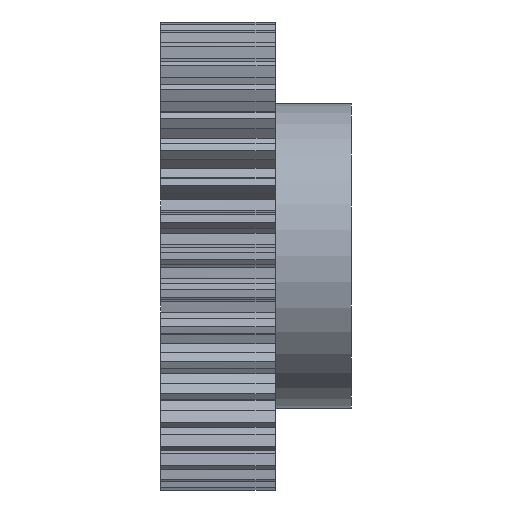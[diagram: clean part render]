
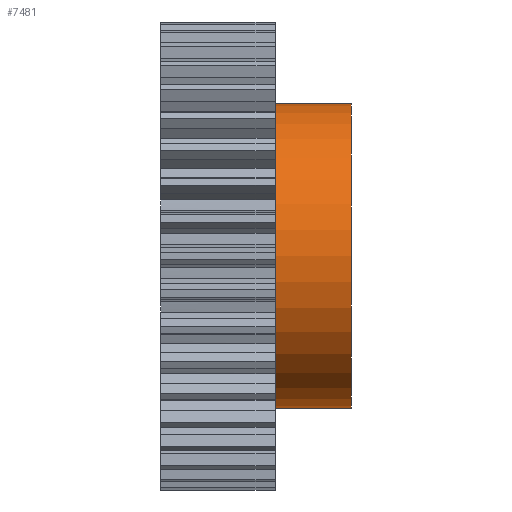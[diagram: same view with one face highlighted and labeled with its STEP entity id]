
A CAD part, front view. The second image highlights one B-rep face of the part: STEP entity #7481.
In plain terms, the highlighted cylindrical face has radius 40 mm (diameter 80 mm), a partial arc.
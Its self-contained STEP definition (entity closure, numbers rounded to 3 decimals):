
#187 = VERTEX_POINT ( 'NONE', #6076 ) ;
#190 = VERTEX_POINT ( 'NONE', #6078 ) ;
#266 = EDGE_CURVE ( 'NONE', #187, #279, #6208, .T. ) ;
#272 = VERTEX_POINT ( 'NONE', #6201 ) ;
#279 = VERTEX_POINT ( 'NONE', #6245 ) ;
#318 = EDGE_CURVE ( 'NONE', #190, #272, #6286, .T. ) ;
#2227 = DIRECTION ( 'NONE',  ( 1., 0., 0. ) ) ;
#2642 = CARTESIAN_POINT ( 'NONE',  ( 15., 0., 0. ) ) ;
#2665 = AXIS2_PLACEMENT_3D ( 'NONE', #2642, #2227, #3147 ) ;
#2918 = CIRCLE ( 'NONE', #2665, 40. ) ;
#3129 = DIRECTION ( 'NONE',  ( 0., 0., 1. ) ) ;
#3130 = DIRECTION ( 'NONE',  ( -1., 0., 0. ) ) ;
#3131 = AXIS2_PLACEMENT_3D ( 'NONE', #3146, #3130, #3129 ) ;
#3139 = CIRCLE ( 'NONE', #3131, 40. ) ;
#3146 = CARTESIAN_POINT ( 'NONE',  ( 35., 0., 0. ) ) ;
#3147 = DIRECTION ( 'NONE',  ( 0., 0., 1. ) ) ;
#3485 = FACE_OUTER_BOUND ( 'NONE', #7368, .T. ) ;
#3521 = DIRECTION ( 'NONE',  ( -1., 0., 0. ) ) ;
#3522 = CARTESIAN_POINT ( 'NONE',  ( 15., 0., 0. ) ) ;
#3528 = CYLINDRICAL_SURFACE ( 'NONE', #3568, 40. ) ;
#3564 = DIRECTION ( 'NONE',  ( 0., 0., 1. ) ) ;
#3568 = AXIS2_PLACEMENT_3D ( 'NONE', #3522, #3521, #3564 ) ;
#6076 = CARTESIAN_POINT ( 'NONE',  ( 35., 0., -40. ) ) ;
#6078 = CARTESIAN_POINT ( 'NONE',  ( 35., 0., 40. ) ) ;
#6196 = DIRECTION ( 'NONE',  ( -1., 0., 0. ) ) ;
#6197 = VECTOR ( 'NONE', #6196, 1000. ) ;
#6198 = CARTESIAN_POINT ( 'NONE',  ( 15., 0., -40. ) ) ;
#6201 = CARTESIAN_POINT ( 'NONE',  ( 15., 0., 40. ) ) ;
#6208 = LINE ( 'NONE', #6198, #6197 ) ;
#6245 = CARTESIAN_POINT ( 'NONE',  ( 15., 0., -40. ) ) ;
#6283 = DIRECTION ( 'NONE',  ( -1., 0., 0. ) ) ;
#6284 = VECTOR ( 'NONE', #6283, 1000. ) ;
#6285 = CARTESIAN_POINT ( 'NONE',  ( 15., 0., 40. ) ) ;
#6286 = LINE ( 'NONE', #6285, #6284 ) ;
#7124 = EDGE_CURVE ( 'NONE', #187, #190, #3139, .T. ) ;
#7132 = EDGE_CURVE ( 'NONE', #272, #279, #2918, .T. ) ;
#7368 = EDGE_LOOP ( 'NONE', ( #7480, #7479, #7484, #7483 ) ) ;
#7479 = ORIENTED_EDGE ( 'NONE', *, *, #7124, .T. ) ;
#7480 = ORIENTED_EDGE ( 'NONE', *, *, #266, .F. ) ;
#7481 = ADVANCED_FACE ( 'NONE', ( #3485 ), #3528, .T. ) ;
#7483 = ORIENTED_EDGE ( 'NONE', *, *, #7132, .T. ) ;
#7484 = ORIENTED_EDGE ( 'NONE', *, *, #318, .T. ) ;
